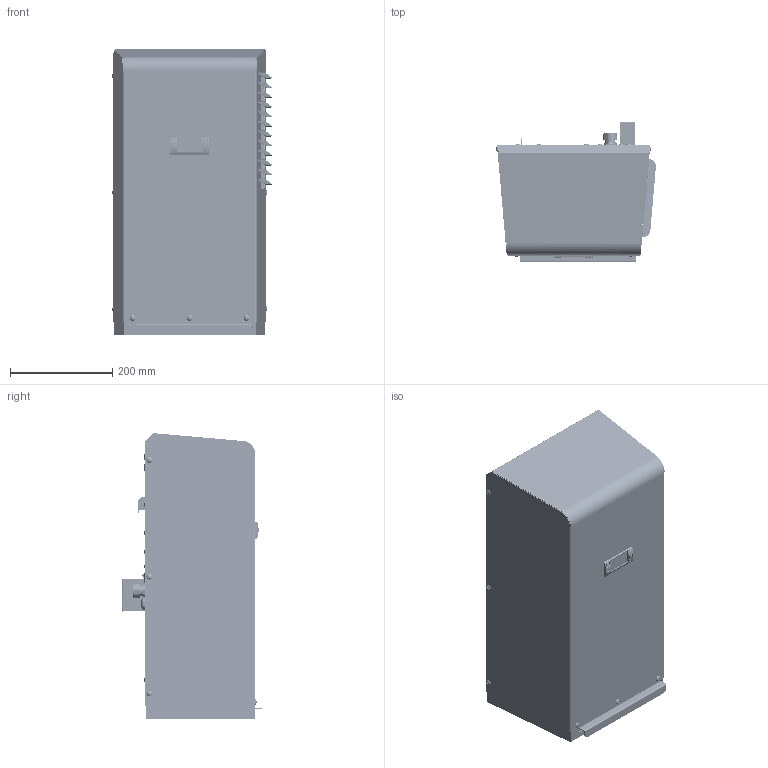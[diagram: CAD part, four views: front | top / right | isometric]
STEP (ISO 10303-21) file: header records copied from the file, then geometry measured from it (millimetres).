
FILE_DESCRIPTION(/* description */ ('Unknown'),/* implementation_level */ '2;1');
FILE_NAME(/* name */ 'NE010-NE015 with Single-Bend Chassis and Terminal Block, Visible Internals Only - OK for Distribution',/* time_stamp */ '2021-10-25T11:24:23-05:00',/* author */ ('Unknown'),/* organization */ ('Unknown'),/* preprocessor_version */ 'ST-DEVELOPER v18.1',/* originating_system */ 'Solid Edge',/* authorisation */ 'Unknown');
FILE_SCHEMA (('AUTOMOTIVE_DESIGN {1 0 10303 214 3 1 1}'));
Products named in the file (108): NE010-NE015 - Visible Internals Only - Ok for distribution; 22161, Baffle, Evaporator, NE015_0; 22161, Baffle, Evaporator, NE015_0_0; 22162, Baffle, Evaporator, NE015_0; 22162, Baffle, Evaporator, NE015_0_0; 22190, Mount, Condenser less controller, NE015_0; 20017_SHROUD, NE015 w CONTROLLER_0; Screw _PanHead_No10x3I8_0; Screw _PanHead_No10x3I8-oa2_0; Screw _PanHead_No10x3I8-oa3_0; Screw _PanHead_No10x3I8-oa4_0; Screw _PanHead_No10x3I8-oa5_0; Screw _PanHead_No10x3I8-oa6_0; Screw _PanHead_No10x3I8-oa7_0; Screw _PanHead_No10x3I8-oa8_0; Screw _PanHead_No10x3I8-oa9_0; 20020_Chassis Front Load, NE015 Recip, Separate Deflector, Term Blk_H
ex Mounting Hole; 20020_Chassis Front Load, NE015 Recip, Separate Deflector, Phoenix Te
rm Blk_Hex Mounting Hole; 59010-1-1, Madison Elec 50A650 Cord Grip; AETHS-1032-120ZI-Installed; PRODUCT_ID_2_1; 22167 - Right Bracket, Recip -1 Prod Tab-Weld Version Gen III - Tec A
ZA Compressor; 22168_Left Bracket, Recip -1 Prod Tab-Weld Version, Gen III - Tec AZA
 Compressor; Switch_Cherry RRA22H3BBBN; Nut, Strain Relief; 22176_Sub-Weldment, Filter Frame, NE015; 22177_FILTER FRAME; 22178_FILTER FACE PLATE; Strain Relief Heyco 12 ga w flats; 22425, Phoenix Terminal Block Cover, Vertical; 22164_Chase, 1500 recip; 30002_Coil Evap 1500 - 3 row 1 in Flg_0_1; 30002_Coil Evap 1500 - 3 row 1 in Flg_0_0_0; 30002_Coil Evap 1500 - 3 row 1 in Flg_0_1_0; 30002_Coil Evap 1500 - 3 row 1 in Flg_6_0; 30002_Coil Evap 1500 - 3 row 1 in Flg_6_1_0; 30002_Coil Evap 1500 - 3 row 1 in Flg-1_0; 30002_Coil Evap 1500 - 3 row 1 in Flg_24_0; 30002_Coil Evap 1500 - 3 row 1 in Flg_21_0; 30002_Coil Evap 1500 - 3 row 1 in Flg_21_1_0 ...
Assembly tree (150 placements, depth 4):
  NE010-NE015 - Visible Internals Only - Ok for distribution
    22161, Baffle, Evaporator, NE015_0
      22161, Baffle, Evaporator, NE015_0_0
    22162, Baffle, Evaporator, NE015_0
      22162, Baffle, Evaporator, NE015_0_0
    22190, Mount, Condenser less controller, NE015_0
      22190, Mount, Condenser less controller, NE015_0
    20017_SHROUD, NE015 w CONTROLLER_0
      20017_SHROUD, NE015 w CONTROLLER_0
    Screw _PanHead_No10x3I8_0
      Screw _PanHead_No10x3I8_0
    Screw _PanHead_No10x3I8-oa2_0
      Screw _PanHead_No10x3I8-oa2_0
    Screw _PanHead_No10x3I8-oa3_0
      Screw _PanHead_No10x3I8-oa3_0
    Screw _PanHead_No10x3I8-oa4_0
      Screw _PanHead_No10x3I8-oa4_0
    Screw _PanHead_No10x3I8-oa5_0
      Screw _PanHead_No10x3I8-oa5_0
    Screw _PanHead_No10x3I8-oa6_0
      Screw _PanHead_No10x3I8-oa6_0
    Screw _PanHead_No10x3I8-oa7_0
      Screw _PanHead_No10x3I8-oa7_0
    Screw _PanHead_No10x3I8-oa8_0
      Screw _PanHead_No10x3I8-oa8_0
    Screw _PanHead_No10x3I8-oa9_0
      Screw _PanHead_No10x3I8-oa9_0
    20020_Chassis Front Load, NE015 Recip, Separate Deflector, Term Blk_H
ex Mounting Hole
      20020_Chassis Front Load, NE015 Recip, Separate Deflector, Phoenix Te
rm Blk_Hex Mounting Hole
      59010-1-1, Madison Elec 50A650 Cord Grip
      AETHS-1032-120ZI-Installed  x6
        PRODUCT_ID_2_1
      22167 - Right Bracket, Recip -1 Prod Tab-Weld Version Gen III - Tec A
ZA Compressor
      22168_Left Bracket, Recip -1 Prod Tab-Weld Version, Gen III - Tec AZA
 Compressor
      Switch_Cherry RRA22H3BBBN
      Nut, Strain Relief
      22176_Sub-Weldment, Filter Frame, NE015
        22177_FILTER FRAME
        22178_FILTER FACE PLATE
      Strain Relief Heyco 12 ga w flats
      22425, Phoenix Terminal Block Cover, Vertical
      22164_Chase, 1500 recip
    30002_Coil Evap 1500 - 3 row 1 in Flg_0_1
      30002_Coil Evap 1500 - 3 row 1 in Flg_0_0_0
        30002_Coil Evap 1500 - 3 row 1 in Flg_0_1_0
      30002_Coil Evap 1500 - 3 row 1 in Flg_6_0
        30002_Coil Evap 1500 - 3 row 1 in Flg_6_1_0
      30002_Coil Evap 1500 - 3 row 1 in Flg-1_0
        30002_Coil Evap 1500 - 3 row 1 in Flg_24_0
      30002_Coil Evap 1500 - 3 row 1 in Flg_21_0
        30002_Coil Evap 1500 - 3 row 1 in Flg_21_1_0
    22180_Condensate Pan, NE015_0_0
      22180_Condensate Pan, NE015-1_0
        22180_Condensate Pan, NE015_0_0
      ALUM TUBE 375 X 1_0  x2
        ALUM TUBE 375 X 1_0_0
    22163_Fan Mount, Evap, NE015.psm_0
      22163_Fan Mount, Evap, NE015_0_0
        22163_Fan Mount, Evap, NE015_0_0
      PEM 832-1_0  x4
Bounding box: 312.49 x 275.32 x 559.04 mm (x, y, z)
Volume: 4500693.2 mm3; surface area: 2576930.8 mm2
Topology: 123 solids, 127 shells, 4133 faces, 10653 edges, 6873 vertices
Faces by surface type: plane 2552, cylinder 1237, torus 170, cone 85, bspline 59, sphere 30
Full cylindrical faces by diameter (mm): 1.143 x4, 1.633 x1, 2.083 x2, 2.311 x2, 2.515 x6, 3.048 x4, 3.454 x3, 3.505 x4, 3.556 x4, 3.967 x7, 4.039 x10, 4.216 x4, 4.318 x5, 4.674 x8, 4.75 x4, 4.775 x26, 4.826 x9, 4.902 x35, 4.928 x8, 5.156 x16, 5.182 x2, 5.41 x4, 5.563 x8, 5.791 x9, 6.096 x24, 6.35 x12, 6.756 x16, 6.858 x13, 6.985 x6, 7.125 x16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
Entity records: 104115 total; most frequent: CARTESIAN_POINT 18961, DIRECTION 15999, ORIENTED_EDGE 15902, EDGE_CURVE 7951, LINE 5821, VECTOR 5821, VERTEX_POINT 5350, AXIS2_PLACEMENT_3D 5089
